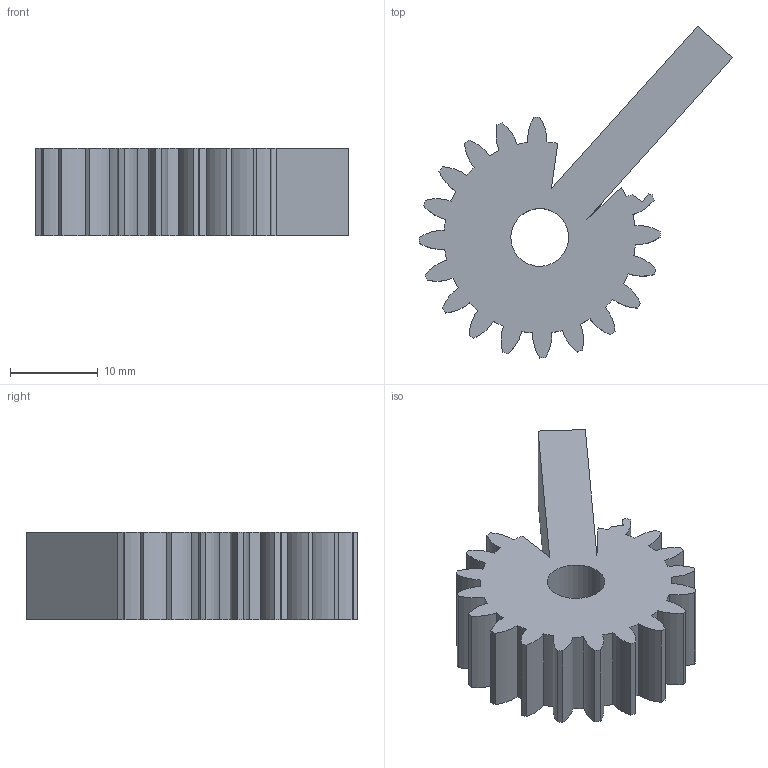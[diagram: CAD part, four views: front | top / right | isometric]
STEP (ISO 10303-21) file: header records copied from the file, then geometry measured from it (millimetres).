
FILE_DESCRIPTION(('Open CASCADE Model'),'2;1');
FILE_NAME('Open CASCADE Shape Model','2026-11-14T12:11:57',('Author'),( 'Open CASCADE'),'Open CASCADE STEP processor 8.0','Open CASCADE 8.0' ,'Unknown');
FILE_SCHEMA(('AUTOMOTIVE_DESIGN { 1 0 10303 214 1 1 1 1 }'));
Length unit declared in the file: millimetre
Products named in the file (1): Open CASCADE STEP translator 8.0 1
Bounding box: 35.78 x 37.89 x 10 mm (x, y, z)
Volume: 5178.1 mm3; surface area: 3268.2 mm2
Topology: 1 solids, 1 shells, 80 faces, 234 edges, 156 vertices
Faces by surface type: cylinder 71, plane 9
Full cylindrical faces by diameter (mm): 6.6 x1
Entity records: 5954 total; most frequent: CARTESIAN_POINT 1258, DIRECTION 952, ORIENTED_EDGE 468, PCURVE 468, DEFINITIONAL_REPRESENTATION 468, LINE 417, VECTOR 417, EDGE_CURVE 234
